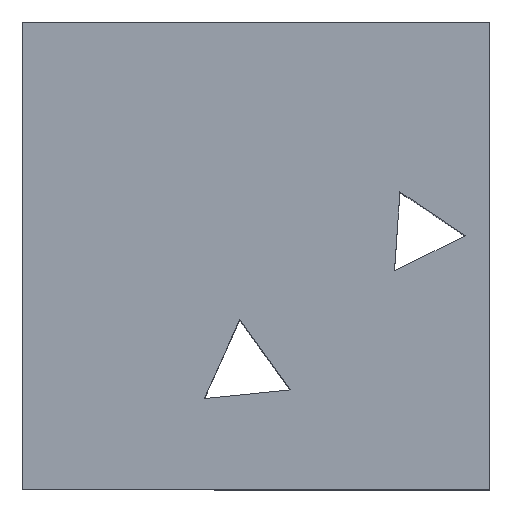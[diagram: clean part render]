
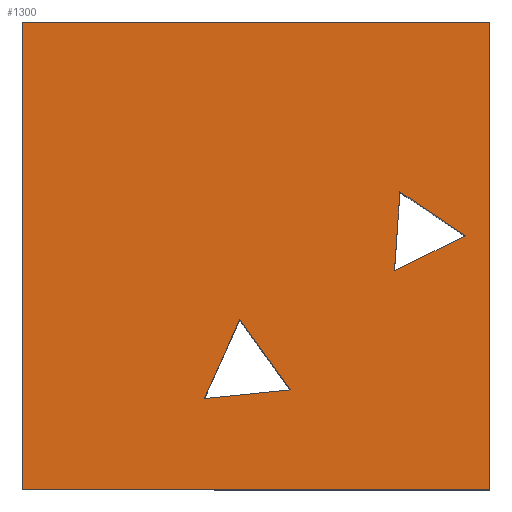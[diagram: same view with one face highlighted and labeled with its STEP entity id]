
A CAD part, top view. The second image highlights one B-rep face of the part: STEP entity #1300.
In plain terms, the highlighted planar face has unit normal (0, 0, 1).
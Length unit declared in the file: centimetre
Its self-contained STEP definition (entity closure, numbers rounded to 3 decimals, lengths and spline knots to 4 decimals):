
#41 = CARTESIAN_POINT ( 'NONE',  ( 465.0345, 362.7741, 1000. ) ) ;
#49 = CARTESIAN_POINT ( 'NONE',  ( 0., 0., 1000. ) ) ;
#74 = EDGE_LOOP ( 'NONE', ( #333, #1277, #551 ) ) ;
#94 = EDGE_CURVE ( 'NONE', #589, #1160, #1538, .T. ) ;
#99 = ORIENTED_EDGE ( 'NONE', *, *, #1246, .T. ) ;
#121 = VECTOR ( 'NONE', #643, 100. ) ;
#156 = LINE ( 'NONE', #1420, #121 ) ;
#170 = VECTOR ( 'NONE', #1351, 100. ) ;
#213 = VECTOR ( 'NONE', #438, 100. ) ;
#218 = DIRECTION ( 'NONE',  ( -0.069, -0.998, 0. ) ) ;
#245 = EDGE_CURVE ( 'NONE', #693, #1475, #666, .T. ) ;
#283 = DIRECTION ( 'NONE',  ( 0.899, 0.439, 0. ) ) ;
#284 = EDGE_CURVE ( 'NONE', #788, #1023, #1606, .T. ) ;
#333 = ORIENTED_EDGE ( 'NONE', *, *, #94, .F. ) ;
#334 = VECTOR ( 'NONE', #1374, 100. ) ;
#343 = VERTEX_POINT ( 'NONE', #1216 ) ;
#352 = CARTESIAN_POINT ( 'NONE',  ( 0., 1000., 1000. ) ) ;
#356 = CARTESIAN_POINT ( 'NONE',  ( 389.2267, 193.8867, 1000. ) ) ;
#362 = DIRECTION ( 'NONE',  ( 0., -1., 0. ) ) ;
#387 = EDGE_CURVE ( 'NONE', #800, #589, #964, .T. ) ;
#424 = DIRECTION ( 'NONE',  ( 0., 0., 1. ) ) ;
#425 = ORIENTED_EDGE ( 'NONE', *, *, #284, .T. ) ;
#426 = VERTEX_POINT ( 'NONE', #876 ) ;
#438 = DIRECTION ( 'NONE',  ( 0., 1., 0. ) ) ;
#448 = CARTESIAN_POINT ( 'NONE',  ( 1000., 1000., 1000. ) ) ;
#470 = EDGE_LOOP ( 'NONE', ( #1548, #732, #531 ) ) ;
#531 = ORIENTED_EDGE ( 'NONE', *, *, #962, .T. ) ;
#535 = DIRECTION ( 'NONE',  ( 0.41, 0.912, 0. ) ) ;
#546 = EDGE_CURVE ( 'NONE', #1160, #800, #624, .T. ) ;
#551 = ORIENTED_EDGE ( 'NONE', *, *, #546, .F. ) ;
#557 = CARTESIAN_POINT ( 'NONE',  ( 573.3913, 212.6789, 1000. ) ) ;
#580 = VECTOR ( 'NONE', #283, 100. ) ;
#589 = VERTEX_POINT ( 'NONE', #761 ) ;
#618 = ORIENTED_EDGE ( 'NONE', *, *, #1346, .T. ) ;
#624 = LINE ( 'NONE', #777, #1099 ) ;
#643 = DIRECTION ( 'NONE',  ( 0.585, -0.811, 0. ) ) ;
#666 = LINE ( 'NONE', #41, #1330 ) ;
#667 = CARTESIAN_POINT ( 'NONE',  ( 1000., 1000., 1000. ) ) ;
#693 = VERTEX_POINT ( 'NONE', #766 ) ;
#703 = PLANE ( 'NONE',  #934 ) ;
#727 = VECTOR ( 'NONE', #218, 100. ) ;
#732 = ORIENTED_EDGE ( 'NONE', *, *, #1077, .T. ) ;
#734 = LINE ( 'NONE', #356, #170 ) ;
#753 = ORIENTED_EDGE ( 'NONE', *, *, #1408, .T. ) ;
#761 = CARTESIAN_POINT ( 'NONE',  ( 796.3989, 468.0243, 1000. ) ) ;
#766 = CARTESIAN_POINT ( 'NONE',  ( 389.2267, 193.8867, 1000. ) ) ;
#777 = CARTESIAN_POINT ( 'NONE',  ( 948.1918, 542.1308, 1000. ) ) ;
#788 = VERTEX_POINT ( 'NONE', #448 ) ;
#800 = VERTEX_POINT ( 'NONE', #801 ) ;
#801 = CARTESIAN_POINT ( 'NONE',  ( 808.1172, 636.5342, 1000. ) ) ;
#833 = CARTESIAN_POINT ( 'NONE',  ( 0., 1000., 1000. ) ) ;
#876 = CARTESIAN_POINT ( 'NONE',  ( 0., 0., 1000. ) ) ;
#879 = DIRECTION ( 'NONE',  ( -0.829, 0.559, 0. ) ) ;
#906 = CARTESIAN_POINT ( 'NONE',  ( 796.3989, 468.0243, 1000. ) ) ;
#922 = DIRECTION ( 'NONE',  ( 1., 0., 0. ) ) ;
#934 = AXIS2_PLACEMENT_3D ( 'NONE', #49, #424, #922 ) ;
#962 = EDGE_CURVE ( 'NONE', #1316, #693, #734, .T. ) ;
#964 = LINE ( 'NONE', #980, #727 ) ;
#980 = CARTESIAN_POINT ( 'NONE',  ( 808.1172, 636.5342, 1000. ) ) ;
#988 = CARTESIAN_POINT ( 'NONE',  ( 0., 0., 1000. ) ) ;
#1023 = VERTEX_POINT ( 'NONE', #1637 ) ;
#1057 = FACE_BOUND ( 'NONE', #74, .T. ) ;
#1077 = EDGE_CURVE ( 'NONE', #1475, #1316, #156, .T. ) ;
#1099 = VECTOR ( 'NONE', #879, 100. ) ;
#1119 = DIRECTION ( 'NONE',  ( -1., 0., 0. ) ) ;
#1160 = VERTEX_POINT ( 'NONE', #1411 ) ;
#1200 = FACE_BOUND ( 'NONE', #470, .T. ) ;
#1216 = CARTESIAN_POINT ( 'NONE',  ( 1000., 0., 1000. ) ) ;
#1221 = CARTESIAN_POINT ( 'NONE',  ( 465.0345, 362.7741, 1000. ) ) ;
#1246 = EDGE_CURVE ( 'NONE', #343, #788, #1569, .T. ) ;
#1277 = ORIENTED_EDGE ( 'NONE', *, *, #387, .F. ) ;
#1300 = ADVANCED_FACE ( 'NONE', ( #1057, #1200, #1327 ), #703, .T. ) ;
#1316 = VERTEX_POINT ( 'NONE', #557 ) ;
#1327 = FACE_OUTER_BOUND ( 'NONE', #1539, .T. ) ;
#1330 = VECTOR ( 'NONE', #535, 100. ) ;
#1346 = EDGE_CURVE ( 'NONE', #1023, #426, #1365, .T. ) ;
#1351 = DIRECTION ( 'NONE',  ( -0.995, -0.102, 0. ) ) ;
#1365 = LINE ( 'NONE', #352, #1398 ) ;
#1374 = DIRECTION ( 'NONE',  ( 1., 0., 0. ) ) ;
#1398 = VECTOR ( 'NONE', #362, 100. ) ;
#1408 = EDGE_CURVE ( 'NONE', #426, #343, #1624, .T. ) ;
#1411 = CARTESIAN_POINT ( 'NONE',  ( 948.1918, 542.1308, 1000. ) ) ;
#1420 = CARTESIAN_POINT ( 'NONE',  ( 573.3913, 212.6789, 1000. ) ) ;
#1468 = VECTOR ( 'NONE', #1119, 100. ) ;
#1475 = VERTEX_POINT ( 'NONE', #1221 ) ;
#1538 = LINE ( 'NONE', #906, #580 ) ;
#1539 = EDGE_LOOP ( 'NONE', ( #618, #753, #99, #425 ) ) ;
#1548 = ORIENTED_EDGE ( 'NONE', *, *, #245, .T. ) ;
#1569 = LINE ( 'NONE', #667, #213 ) ;
#1606 = LINE ( 'NONE', #833, #1468 ) ;
#1624 = LINE ( 'NONE', #988, #334 ) ;
#1637 = CARTESIAN_POINT ( 'NONE',  ( 0., 1000., 1000. ) ) ;
